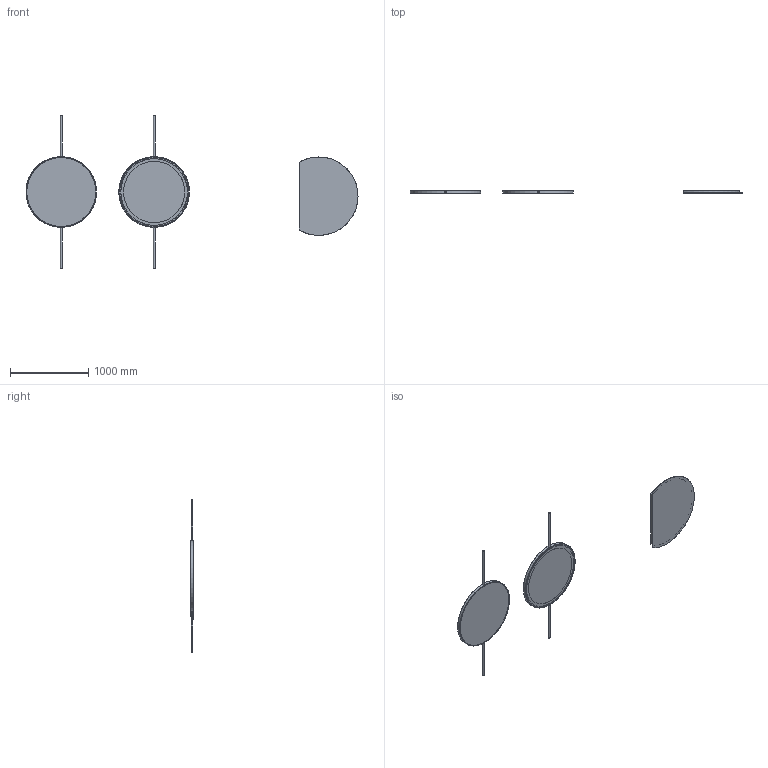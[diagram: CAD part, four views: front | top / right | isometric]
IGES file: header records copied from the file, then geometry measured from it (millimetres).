
Global section: file name: \\Archi-NAS\Comune\X GIOVANNI\SPECCHI\MIRR MOON.igs; native system: Rhinoceros ( Feb 23 2021 ); preprocessor: Trout Lake IGES 012 Feb 23 2021; date: 230608.085402; units: millimetre
Bounding box: 4237.33 x 35 x 1942.57 mm (x, y, z)
Surface area: 5398388.6 mm2 (no closed solid volume)
Topology: 0 solids, 0 shells, 34 faces, 166 edges, 160 vertices
Faces by surface type: bspline 34
